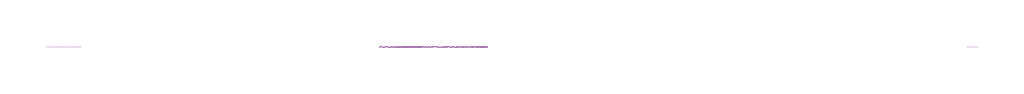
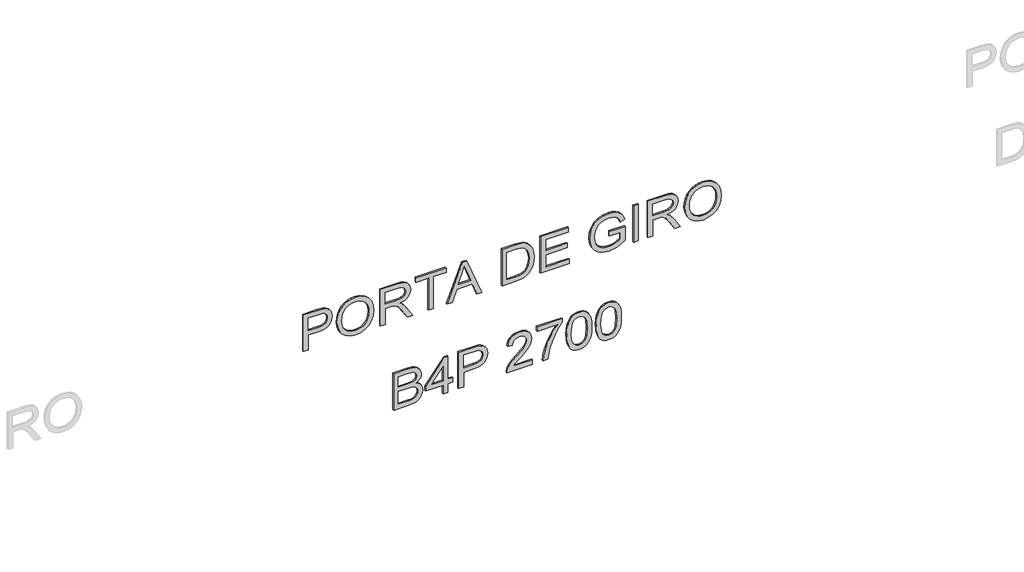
# One storey, part 7 of 13: 1 proxy.
"""IFC4 building model written with IfcOpenShell, lengths in millimetres."""

from ifc_helpers import new_model, si_unit, frame, origin, place, context, project, spatial, polyline, outline, extrude, element, save

model = new_model("IFC4")

# Units and contexts
model_context = context("Model", 3, world=origin())
ifc_project = project(units=[si_unit("LENGTHUNIT", "METRE", prefix="MILLI")], contexts=[model_context])

# Site, building, storey
site = spatial("IfcSite", under=ifc_project)
building = spatial("IfcBuilding", under=site)
storey = spatial("IfcBuildingStorey", under=building, Name="02 - Marelli - Planta Baixa - Portas", Elevation=-12000.0)

# Proxy
placement = place(None, origin())
element("IfcBuildingElementProxy", 1, Name="300mm Arial", ObjectType="300mm Arial", at=placement, inside=storey, context=model_context, shape_type="SweptSolid", body=[
    extrude(outline(polyline([(-6049.0625952, 37248.0968395), (-6049.0625952, 37285.7679558), (-5926.6314672, 37285.7679558), (-5926.6314672, 37362.3609872), (-5924.9668012, 37391.5593213), (-5919.9728031, 37415.8786204), (-5911.6494729, 37435.3188846), (-5899.9968107, 37449.8801138), (-5885.93912, 37460.4866116), (-5870.4007042, 37468.0626814), (-5853.3815634, 37472.6083233), (-5834.8816976, 37474.1235373), (-5813.4249802, 37471.8794571), (-5793.7892787, 37465.1472166), (-5777.1426184, 37454.7269591), (-5764.6530247, 37441.4188279), (-5755.9250244, 37424.8917293), (-5750.5631443, 37404.8145694), (-5747.6936647, 37359.7858132), (-5747.6936647, 37248.0968395), (-6049.0625952, 37248.0968395)]), holes=[polyline([(-5888.9603509, 37285.7679558), (-5785.364781, 37285.7679558), (-5785.364781, 37363.6853623), (-5787.939955, 37401.3564786), (-5794.2675253, 37415.5843148), (-5805.0096796, 37426.7771245), (-5819.283501, 37434.0335969), (-5836.2060728, 37436.452421), (-5858.4813276, 37432.3505367), (-5875.1279879, 37420.044884), (-5885.5022601, 37397.9719643), (-5888.9603509, 37364.5682791), (-5888.9603509, 37285.7679558)])]), frame((0.0, 8778.3159498, 0.0), z_axis=(0.0, 1.0, 0.0), x_axis=(0.0, 0.0, 1.0)), (0.0, 0.0, 1.0), 10.0),
    extrude(outline(polyline([(-5902.3512555, 37511.7946536), (-5940.8960916, 37516.0988729), (-5977.3623943, 37529.011531), (-6009.0554282, 37550.2751103), (-6033.2804576, 37579.6320935), (-6048.6487279, 37615.2798588), (-6053.7714847, 37655.4157845), (-6049.1361716, 37693.2248566), (-6035.2302322, 37728.3667842), (-6012.3111839, 37758.3307727), (-5980.6365441, 37780.6060275), (-5942.1744815, 37794.4291934), (-5898.8931648, 37799.0369154), (-5856.1820651, 37794.6591197), (-5818.2534314, 37781.5257325), (-5786.6339739, 37760.0414239), (-5762.8504029, 37730.6108643), (-5747.9511821, 37695.1654341), (-5742.9847752, 37655.6365137), (-5745.628927, 37625.3460299), (-5753.5613826, 37597.971011), (-5766.7821418, 37573.5114568), (-5785.2912046, 37551.9673675), (-5808.4723689, 37534.3918051), (-5835.7094321, 37521.8378321), (-5867.0023943, 37514.3054482), (-5902.3512555, 37511.7946536)]), holes=[polyline([(-5902.7191375, 37549.4657699), (-5872.1826326, 37551.4293401), (-5846.3504188, 37557.3200505), (-5825.222496, 37567.1379012), (-5808.7988641, 37580.8828923), (-5796.4863136, 37597.3502101), (-5787.6916347, 37615.3350411), (-5782.4148273, 37634.8373854), (-5780.6558915, 37655.8572429), (-5784.3071203, 37685.0210881), (-5795.2608067, 37711.1499068), (-5812.8547631, 37732.8089592), (-5836.426802, 37748.5635057), (-5865.2503563, 37758.1652258), (-5898.5988592, 37761.3657991), (-5925.1369466, 37759.4964987), (-5948.4652636, 37753.8885976), (-5968.5838102, 37744.5420956), (-5985.4925864, 37731.4569929), (-5998.883491, 37715.4748195), (-6008.4484229, 37697.4371054), (-6014.187382, 37677.3438507), (-6016.1003684, 37655.1950553), (-6014.2057761, 37633.4187405), (-6008.5219993, 37613.5600105), (-5999.0490379, 37595.6188655), (-5985.786892, 37579.5953053), (-5969.2276037, 37566.4136336), (-5949.8632152, 37556.9981538), (-5927.6937264, 37551.3488659), (-5902.7191375, 37549.4657699)])]), frame((0.0, 8778.3159498, 0.0), z_axis=(0.0, 1.0, 0.0), x_axis=(0.0, 0.0, 1.0)), (0.0, 0.0, 1.0), 10.0),
    extrude(outline(polyline([(-6049.0625952, 37850.8347003), (-6049.0625952, 37888.5058167), (-5917.2136881, 37888.5058167), (-5917.2136881, 37933.9760313), (-5918.5380633, 37955.8282218), (-5925.7117622, 37973.7440749), (-5945.2462961, 37993.6464909), (-5986.5962324, 38021.9734045), (-6049.0625952, 38061.1896252), (-6049.0625952, 38104.9675826), (-5967.3927923, 38054.7149021), (-5928.61803, 38024.1806965), (-5912.5047986, 38002.7699644), (-5902.5168024, 38039.8800606), (-5894.5015734, 38054.2619474), (-5884.4721905, 38065.8617265), (-5859.8608851, 38081.1748146), (-5830.1728081, 38086.2791773), (-5806.3064636, 38083.1981656), (-5784.5922289, 38073.9551304), (-5767.0810459, 38059.5525503), (-5755.8238568, 38040.9929037), (-5749.7262128, 38015.5998489), (-5747.6936647, 37980.6970446), (-5747.6936647, 37850.8347003), (-6049.0625952, 37850.8347003)]), holes=[polyline([(-5879.5425718, 37888.5058167), (-5785.364781, 37888.5058167), (-5785.364781, 37982.3157254), (-5788.6205367, 38012.1233641), (-5798.3878037, 38032.6787706), (-5813.195054, 38044.6257384), (-5831.5707596, 38048.608061), (-5844.8788908, 38046.5203306), (-5857.1385583, 38040.2571397), (-5867.2737073, 38029.9748379), (-5874.2082829, 38015.8297752), (-5878.2089996, 37997.0402023), (-5879.5425718, 37972.82437), (-5879.5425718, 37888.5058167)])]), frame((0.0, 8778.3159498, 0.0), z_axis=(0.0, 1.0, 0.0), x_axis=(0.0, 0.0, 1.0)), (0.0, 0.0, 1.0), 10.0),
    extrude(outline(polyline([(-6049.0625952, 38227.5458634), (-6049.0625952, 38265.2169797), (-5785.364781, 38265.2169797), (-5785.364781, 38364.10366), (-5747.6936647, 38364.10366), (-5747.6936647, 38128.6591831), (-5785.364781, 38128.6591831), (-5785.364781, 38227.5458634), (-6049.0625952, 38227.5458634)])), frame((0.0, 8778.3159498, 0.0), z_axis=(0.0, 1.0, 0.0), x_axis=(0.0, 0.0, 1.0)), (0.0, 0.0, 1.0), 10.0),
    extrude(outline(polyline([(-6049.0625952, 38371.3877235), (-6049.0625952, 38411.1925554), (-5954.8848044, 38445.6263102), (-5954.8848044, 38569.7496953), (-6049.0625952, 38604.2570265), (-6049.0625952, 38644.0618584), (-5747.6936647, 38523.7644459), (-5747.6936647, 38491.6851359), (-6049.0625952, 38371.3877235)]), holes=[polyline([(-5917.2136881, 38459.4586732), (-5836.6475312, 38488.9628092), (-5785.364781, 38507.7247909), (-5843.1222543, 38528.8412175), (-5917.2136881, 38555.9909087), (-5917.2136881, 38459.4586732)])]), frame((0.0, 8778.3159498, 0.0), z_axis=(0.0, 1.0, 0.0), x_axis=(0.0, 0.0, 1.0)), (0.0, 0.0, 1.0), 10.0),
    extrude(outline(polyline([(-6049.0625952, 38802.0303871), (-6049.0625952, 38910.9970341), (-6043.9122473, 38959.4470928), (-6037.5570858, 38978.9908238), (-6028.7922972, 38995.4627401), (-6016.9740882, 39009.810138), (-6001.458665, 39022.9803134), (-5981.8045694, 39034.4214434), (-5957.570343, 39043.5817051), (-5929.1054736, 39049.5965757), (-5896.7594492, 39051.6015326), (-5858.6836627, 39048.6400825), (-5825.0960365, 39039.7557324), (-5796.5483937, 39024.9116939), (-5773.5925572, 39004.0711788), (-5760.4039877, 38983.8008809), (-5752.0346723, 38959.7781866), (-5747.6936647, 38905.9938389), (-5747.6936647, 38802.0303871), (-6049.0625952, 38802.0303871)]), holes=[polyline([(-6011.3914789, 38839.7015034), (-5785.364781, 38839.7015034), (-5785.364781, 38905.3316513), (-5786.8730972, 38937.0798675), (-5791.3980458, 38958.748117), (-5803.97961, 38980.0392875), (-5824.8017309, 38997.8539731), (-5855.1152073, 39009.9113055), (-5896.170838, 39013.9304163), (-5927.155699, 39011.8794742), (-5953.155759, 39005.7266478), (-5974.2629885, 38995.8950015), (-5990.5693579, 38982.8075995), (-5999.3801317, 38970.6307055), (-6005.9468253, 38954.8485679), (-6010.0303155, 38933.9344764), (-6011.3914789, 38906.3617209), (-6011.3914789, 38839.7015034)])]), frame((0.0, 8778.3159498, 0.0), z_axis=(0.0, 1.0, 0.0), x_axis=(0.0, 0.0, 1.0)), (0.0, 0.0, 1.0), 10.0),
    extrude(outline(polyline([(-6049.0625952, 39103.3993175), (-6049.0625952, 39324.7171258), (-6011.3914789, 39324.7171258), (-6011.3914789, 39141.0704338), (-5912.5047986, 39141.0704338), (-5912.5047986, 39310.5904572), (-5874.8336823, 39310.5904572), (-5874.8336823, 39141.0704338), (-5785.364781, 39141.0704338), (-5785.364781, 39320.0082363), (-5747.6936647, 39320.0082363), (-5747.6936647, 39103.3993175), (-6049.0625952, 39103.3993175)])), frame((0.0, 8778.3159498, 0.0), z_axis=(0.0, 1.0, 0.0), x_axis=(0.0, 0.0, 1.0)), (0.0, 0.0, 1.0), 10.0),
    extrude(outline(polyline([(-5931.3403567, 39640.2127249), (-5931.3403567, 39724.9727366), (-5985.786892, 39724.9727366), (-5996.4278787, 39708.9238845), (-6006.4250719, 39686.8233737), (-6013.6815443, 39661.3751367), (-6016.1003684, 39635.2831062), (-6012.890598, 39605.7329849), (-6003.2612868, 39577.8567267), (-5987.0192967, 39554.0363675), (-5963.9714897, 39536.6539432), (-5934.3293979, 39526.0313506), (-5898.3045536, 39522.4904864), (-5867.586407, 39525.4335424), (-5839.1491287, 39534.2627103), (-5810.1232393, 39553.6500914), (-5798.1854686, 39568.0894597), (-5788.7860836, 39586.4651654), (-5782.6884395, 39608.694435), (-5780.6558915, 39634.694495), (-5782.5412867, 39656.9053704), (-5788.1974724, 39677.0377126), (-5796.9898521, 39693.9234962), (-5808.2838293, 39706.3946958), (-5823.2658236, 39715.8216719), (-5843.1222543, 39723.574785), (-5833.3365932, 39758.3028453), (-5805.4971232, 39748.7103223), (-5783.4885829, 39735.5309498), (-5766.4924347, 39717.7162642), (-5753.6901413, 39694.2178018), (-5745.6611167, 39666.3139524), (-5742.9847752, 39635.2831062), (-5747.6016942, 39593.0134649), (-5761.4524514, 39555.967748), (-5784.803761, 39525.553104), (-5817.9223376, 39503.1766817), (-5857.4052727, 39489.408698), (-5899.8496579, 39484.8193701), (-5941.9905405, 39489.4270921), (-5979.9743565, 39503.2502581), (-6011.6397992, 39526.1141241), (-6034.825562, 39557.8439462), (-6049.035004, 39596.0392943), (-6053.7714847, 39638.2997385), (-6050.7916406, 39670.6457629), (-6041.8521081, 39702.2008411), (-6027.0080696, 39732.8913965), (-6006.3147073, 39762.6438529), (-5893.6692404, 39762.6438529), (-5893.6692404, 39640.2127249), (-5931.3403567, 39640.2127249)])), frame((0.0, 8778.3159498, 0.0), z_axis=(0.0, 1.0, 0.0), x_axis=(0.0, 0.0, 1.0)), (0.0, 0.0, 1.0), 10.0),
    extrude(outline(polyline([(39866.2394227, 8778.3159498), (39828.5683064, 8778.3159498), (39828.5683064, 8788.3159498), (39866.2394227, 8788.3159498), (39866.2394227, 8778.3159498)])), frame((0.0, 0.0, -6049.0625952), z_axis=(0.0, 0.0, 1.0), x_axis=(1.0, 0.0, 0.0)), (0.0, 0.0, 1.0), 301.3689304),
    extrude(outline(polyline([(-6049.0625952, 39941.5816553), (-6049.0625952, 39979.2527716), (-5917.2136881, 39979.2527716), (-5917.2136881, 40024.7229862), (-5918.5380633, 40046.5751768), (-5925.7117622, 40064.4910299), (-5945.2462961, 40084.3934459), (-5986.5962324, 40112.7203595), (-6049.0625952, 40151.9365802), (-6049.0625952, 40195.7145376), (-5967.3927923, 40145.4618571), (-5928.61803, 40114.9276515), (-5912.5047986, 40093.5169193), (-5902.5168024, 40130.6270156), (-5894.5015734, 40145.0089024), (-5884.4721905, 40156.6086815), (-5859.8608851, 40171.9217696), (-5830.1728081, 40177.0261323), (-5806.3064636, 40173.9451205), (-5784.5922289, 40164.7020854), (-5767.0810459, 40150.2995053), (-5755.8238568, 40131.7398586), (-5749.7262128, 40106.3468039), (-5747.6936647, 40071.4439996), (-5747.6936647, 39941.5816553), (-6049.0625952, 39941.5816553)]), holes=[polyline([(-5879.5425718, 39979.2527716), (-5785.364781, 39979.2527716), (-5785.364781, 40073.0626804), (-5788.6205367, 40102.8703191), (-5798.3878037, 40123.4257256), (-5813.195054, 40135.3726933), (-5831.5707596, 40139.3550159), (-5844.8788908, 40137.2672856), (-5857.1385583, 40131.0040947), (-5867.2737073, 40120.7217929), (-5874.2082829, 40106.5767302), (-5878.2089996, 40087.7871573), (-5879.5425718, 40063.5713249), (-5879.5425718, 39979.2527716)])]), frame((0.0, 8778.3159498, 0.0), z_axis=(0.0, 1.0, 0.0), x_axis=(0.0, 0.0, 1.0)), (0.0, 0.0, 1.0), 10.0),
    extrude(outline(polyline([(-5902.3512555, 40228.8239172), (-5940.8960916, 40233.1281365), (-5977.3623943, 40246.0407945), (-6009.0554282, 40267.3043739), (-6033.2804576, 40296.6613571), (-6048.6487279, 40332.3091224), (-6053.7714847, 40372.4450481), (-6049.1361716, 40410.2541201), (-6035.2302322, 40445.3960477), (-6012.3111839, 40475.3600362), (-5980.6365441, 40497.635291), (-5942.1744815, 40511.458457), (-5898.8931648, 40516.066179), (-5856.1820651, 40511.6883833), (-5818.2534314, 40498.554996), (-5786.6339739, 40477.0706875), (-5762.8504029, 40447.6401279), (-5747.9511821, 40412.1946977), (-5742.9847752, 40372.6657773), (-5745.628927, 40342.3752935), (-5753.5613826, 40315.0002745), (-5766.7821418, 40290.5407204), (-5785.2912046, 40268.996631), (-5808.4723689, 40251.4210687), (-5835.7094321, 40238.8670956), (-5867.0023943, 40231.3347118), (-5902.3512555, 40228.8239172)]), holes=[polyline([(-5902.7191375, 40266.4950335), (-5872.1826326, 40268.4586036), (-5846.3504188, 40274.3493141), (-5825.222496, 40284.1671648), (-5808.7988641, 40297.9121559), (-5796.4863136, 40314.3794737), (-5787.6916347, 40332.3643047), (-5782.4148273, 40351.866649), (-5780.6558915, 40372.8865065), (-5784.3071203, 40402.0503517), (-5795.2608067, 40428.1791704), (-5812.8547631, 40449.8382228), (-5836.426802, 40465.5927693), (-5865.2503563, 40475.1944893), (-5898.5988592, 40478.3950627), (-5925.1369466, 40476.5257623), (-5948.4652636, 40470.9178611), (-5968.5838102, 40461.5713592), (-5985.4925864, 40448.4862565), (-5998.883491, 40432.5040831), (-6008.4484229, 40414.466369), (-6014.187382, 40394.3731143), (-6016.1003684, 40372.2243189), (-6014.2057761, 40350.448004), (-6008.5219993, 40330.5892741), (-5999.0490379, 40312.648129), (-5985.786892, 40296.6245689), (-5969.2276037, 40283.4428971), (-5949.8632152, 40274.0274173), (-5927.6937264, 40268.3781294), (-5902.7191375, 40266.4950335)])]), frame((0.0, 8778.3159498, 0.0), z_axis=(0.0, 1.0, 0.0), x_axis=(0.0, 0.0, 1.0)), (0.0, 0.0, 1.0), 10.0),
    extrude(outline(polyline([(-6780.9115023, 37954.4302702), (-6780.9115023, 38068.5472651), (-6775.7243661, 38116.8501711), (-6769.3048253, 38134.8855859), (-6760.4204751, 38149.6284568), (-6748.1516106, 38161.6673951), (-6731.5785267, 38171.5910119), (-6712.089978, 38178.240479), (-6691.074719, 38180.456968), (-6665.8564083, 38177.2104094), (-6644.2065528, 38167.4707336), (-6627.2471929, 38151.6977931), (-6616.1003684, 38130.3514403), (-6604.3557357, 38148.2213082), (-6589.4289238, 38160.9224341), (-6572.3683962, 38168.5100002), (-6554.2226168, 38171.039189), (-6534.5041419, 38168.0317536), (-6515.6685837, 38159.0094477), (-6499.6565199, 38144.680444), (-6488.4085279, 38125.7529153), (-6481.7590608, 38101.0588364), (-6479.5425718, 38069.4301819), (-6479.5425718, 37954.4302702), (-6780.9115023, 37954.4302702)]), holes=[polyline([(-6743.2403859, 37992.1013865), (-6639.6448161, 37992.1013865), (-6639.6448161, 38065.6777855), (-6640.9048119, 38092.50558), (-6644.6847994, 38112.2148579), (-6651.5733898, 38126.1299944), (-6662.1591942, 38135.5753646), (-6675.6972516, 38140.9832299), (-6691.442601, 38142.7858517), (-6704.9990525, 38141.2499444), (-6716.8264587, 38136.6422224), (-6733.5650895, 38120.9704494), (-6741.768858, 38097.3156371), (-6743.2403859, 38069.3566055), (-6743.2403859, 37992.1013865)]), polyline([(-6601.9736998, 37992.1013865), (-6517.2136881, 37992.1013865), (-6517.2136881, 38055.6713953), (-6521.1500255, 38104.0846658), (-6526.7510288, 38116.5742596), (-6535.6813643, 38125.7897035), (-6547.1224943, 38131.4734804), (-6560.2558815, 38133.3680726), (-6573.7847419, 38131.3355246), (-6584.7936106, 38125.2378806), (-6593.153729, 38115.1303227), (-6598.7363382, 38101.0680335), (-6601.9736998, 38060.8953196), (-6601.9736998, 37992.1013865)])]), frame((0.0, 8778.3159498, 0.0), z_axis=(0.0, 1.0, 0.0), x_axis=(0.0, 0.0, 1.0)), (0.0, 0.0, 1.0), 10.0),
    extrude(outline(polyline([(-6780.9115023, 38340.5592123), (-6780.9115023, 38378.2303286), (-6710.2781592, 38378.2303286), (-6710.2781592, 38415.9014449), (-6672.6070429, 38415.9014449), (-6672.6070429, 38378.2303286), (-6484.2514613, 38378.2303286), (-6484.2514613, 38349.9769914), (-6672.6070429, 38204.0014157), (-6710.2781592, 38204.0014157), (-6710.2781592, 38340.5592123), (-6780.9115023, 38340.5592123)]), holes=[polyline([(-6672.6070429, 38340.5592123), (-6672.6070429, 38250.3545471), (-6556.2091796, 38340.5592123), (-6672.6070429, 38340.5592123)])]), frame((0.0, 8778.3159498, 0.0), z_axis=(0.0, 1.0, 0.0), x_axis=(0.0, 0.0, 1.0)), (0.0, 0.0, 1.0), 10.0),
    extrude(outline(polyline([(-6780.9115023, 38462.9903403), (-6780.9115023, 38500.6614566), (-6658.4803743, 38500.6614566), (-6658.4803743, 38577.254488), (-6656.8157082, 38606.4528221), (-6651.8217101, 38630.7721213), (-6643.49838, 38650.2123855), (-6631.8457178, 38664.7736147), (-6617.7880271, 38675.3801125), (-6602.2496113, 38682.9561823), (-6585.2304705, 38687.5018242), (-6566.7306047, 38689.0170382), (-6545.2738873, 38686.772958), (-6525.6381858, 38680.0407175), (-6508.9915255, 38669.62046), (-6496.5019318, 38656.3123288), (-6487.7739314, 38639.7852302), (-6482.4120514, 38619.7080703), (-6479.5425718, 38574.6793141), (-6479.5425718, 38462.9903403), (-6780.9115023, 38462.9903403)]), holes=[polyline([(-6620.809258, 38500.6614566), (-6517.2136881, 38500.6614566), (-6517.2136881, 38578.5788632), (-6519.7888621, 38616.2499795), (-6526.1164324, 38630.4778157), (-6536.8585867, 38641.6706254), (-6551.1324081, 38648.9270977), (-6568.0549798, 38651.3459219), (-6590.3302347, 38647.2440376), (-6606.9768949, 38634.9383849), (-6617.3511672, 38612.8654652), (-6620.809258, 38579.46178), (-6620.809258, 38500.6614566)])]), frame((0.0, 8778.3159498, 0.0), z_axis=(0.0, 1.0, 0.0), x_axis=(0.0, 0.0, 1.0)), (0.0, 0.0, 1.0), 10.0),
    extrude(outline(polyline([(-6743.2403859, 39037.474864), (-6743.2403859, 38889.5127255), (-6724.073734, 38906.5088737), (-6687.8373575, 38949.8453727), (-6658.8206651, 38982.5408851), (-6636.2235136, 39003.8136614), (-6617.2959849, 39017.1585808), (-6599.2881612, 39026.0705221), (-6581.5838402, 39031.0921114), (-6563.5668195, 39032.7659745), (-6546.4143215, 39031.2139723), (-6530.7149573, 39026.5579658), (-6516.4687271, 39018.7979549), (-6503.6756307, 39007.9339398), (-6493.1174174, 38994.4073787), (-6485.5758365, 38978.65973), (-6481.050888, 38960.6909938), (-6479.5425718, 38940.5011701), (-6484.9688312, 38902.6185216), (-6491.7516555, 38886.8846685), (-6501.2476095, 38873.2891295), (-6513.3279345, 38862.0894221), (-6527.8638719, 38853.5430635), (-6564.3025835, 38844.4103929), (-6569.011473, 38882.0815092), (-6547.3616176, 38886.1558023), (-6530.9724747, 38897.9372232), (-6520.6533848, 38916.1933672), (-6517.2136881, 38939.6918297), (-6520.7361582, 38962.068252), (-6531.3035685, 38979.7541789), (-6546.9845386, 38991.2596883), (-6565.8476879, 38995.0948581), (-6586.890538, 38991.0297621), (-6608.5219993, 38978.834474), (-6635.1750499, 38954.4438977), (-6671.2826677, 38913.7929372), (-6694.3396717, 38886.2937581), (-6714.9502605, 38866.6304654), (-6734.6411443, 38853.0372257), (-6754.9390334, 38843.7482053), (-6780.9115023, 38839.7015034), (-6780.9115023, 39037.474864), (-6743.2403859, 39037.474864)])), frame((0.0, 8778.3159498, 0.0), z_axis=(0.0, 1.0, 0.0), x_axis=(0.0, 0.0, 1.0)), (0.0, 0.0, 1.0), 10.0),
    extrude(outline(polyline([(-6521.9225776, 39075.1459803), (-6521.9225776, 39235.2482246), (-6557.2668403, 39205.9280296), (-6599.8767724, 39178.3000917), (-6647.0116531, 39154.6360824), (-6695.9307614, 39137.2076729), (-6742.0815577, 39126.3091688), (-6780.9115023, 39122.2348757), (-6780.9115023, 39159.905992), (-6738.1820085, 39164.9091871), (-6699.0209701, 39173.8855078), (-6646.6805593, 39192.1968341), (-6595.7564941, 39216.8173366), (-6550.387447, 39244.730383), (-6514.7120905, 39272.9193409), (-6484.2514613, 39272.9193409), (-6484.2514613, 39075.1459803), (-6521.9225776, 39075.1459803)])), frame((0.0, 8778.3159498, 0.0), z_axis=(0.0, 1.0, 0.0), x_axis=(0.0, 0.0, 1.0)), (0.0, 0.0, 1.0), 10.0),
    extrude(outline(polyline([(-6632.6550582, 39305.8815677), (-6672.0966066, 39307.7577658), (-6705.9555457, 39313.3863604), (-6734.2318756, 39322.7673513), (-6756.9255962, 39335.9007385), (-6769.4795693, 39349.5859487), (-6778.4466929, 39365.6256037), (-6783.8269671, 39384.0197034), (-6785.6203918, 39404.768248), (-6781.4909164, 39435.2196801), (-6769.1024902, 39459.9137591), (-6748.3171575, 39479.0160317), (-6718.9969625, 39492.6920448), (-6680.6176733, 39500.9142074), (-6632.6550582, 39503.6549283), (-6592.6938765, 39501.944277), (-6561.8377741, 39496.8123232), (-6537.5391683, 39488.9764367), (-6517.2504763, 39479.1539874), (-6501.1096538, 39466.1493589), (-6489.2546565, 39448.7669346), (-6481.970593, 39427.9816019), (-6479.5425718, 39404.768248), (-6483.6444561, 39374.4823627), (-6495.9501088, 39349.8434661), (-6516.6526681, 39330.7136023), (-6545.9452719, 39316.9548157), (-6584.4165316, 39308.6498797), (-6632.6550582, 39305.8815677)]), holes=[polyline([(-6632.5814818, 39343.552684), (-6574.0882446, 39348.1144207), (-6553.0086062, 39353.8165916), (-6537.3736214, 39361.7996309), (-6522.2536714, 39380.7455537), (-6517.2136881, 39404.3267896), (-6522.9342531, 39429.2324007), (-6540.0959482, 39448.9140874), (-6554.4571416, 39456.3820919), (-6574.6584617, 39461.7163808), (-6632.5814818, 39465.983812), (-6691.7461037, 39461.569228), (-6712.0095038, 39456.0509981), (-6726.0602968, 39448.3254762), (-6742.4770308, 39428.6070013), (-6747.9492755, 39404.768248), (-6742.4954249, 39380.9294947), (-6726.1338732, 39361.2110197), (-6712.1060728, 39353.4854978), (-6691.8380742, 39347.9672679), (-6632.5814818, 39343.552684)])]), frame((0.0, 8778.3159498, 0.0), z_axis=(0.0, 1.0, 0.0), x_axis=(0.0, 0.0, 1.0)), (0.0, 0.0, 1.0), 10.0),
    extrude(outline(polyline([(-6632.6550582, 39536.617155), (-6672.0966066, 39538.4933532), (-6705.9555457, 39544.1219477), (-6734.2318756, 39553.5029386), (-6756.9255962, 39566.6363259), (-6769.4795693, 39580.3215361), (-6778.4466929, 39596.3611911), (-6783.8269671, 39614.7552908), (-6785.6203918, 39635.5038354), (-6781.4909164, 39665.9552675), (-6769.1024902, 39690.6493464), (-6748.3171575, 39709.751619), (-6718.9969625, 39723.4276322), (-6680.6176733, 39731.6497948), (-6632.6550582, 39734.3905157), (-6592.6938765, 39732.6798644), (-6561.8377741, 39727.5479105), (-6537.5391683, 39719.712024), (-6517.2504763, 39709.8895748), (-6501.1096538, 39696.8849462), (-6489.2546565, 39679.502522), (-6481.970593, 39658.7171892), (-6479.5425718, 39635.5038354), (-6483.6444561, 39605.2179501), (-6495.9501088, 39580.5790535), (-6516.6526681, 39561.4491897), (-6545.9452719, 39547.6904031), (-6584.4165316, 39539.3854671), (-6632.6550582, 39536.617155)]), holes=[polyline([(-6632.5814818, 39574.2882714), (-6574.0882446, 39578.8500081), (-6553.0086062, 39584.552179), (-6537.3736214, 39592.5352183), (-6522.2536714, 39611.4811411), (-6517.2136881, 39635.062377), (-6522.9342531, 39659.967988), (-6540.0959482, 39679.6496748), (-6554.4571416, 39687.1176793), (-6574.6584617, 39692.4519682), (-6632.5814818, 39696.7193993), (-6691.7461037, 39692.3048154), (-6712.0095038, 39686.7865855), (-6726.0602968, 39679.0610636), (-6742.4770308, 39659.3425886), (-6747.9492755, 39635.5038354), (-6742.4954249, 39611.6650821), (-6726.1338732, 39591.9466071), (-6712.1060728, 39584.2210852), (-6691.8380742, 39578.7028553), (-6632.5814818, 39574.2882714)])]), frame((0.0, 8778.3159498, 0.0), z_axis=(0.0, 1.0, 0.0), x_axis=(0.0, 0.0, 1.0)), (0.0, 0.0, 1.0), 10.0),
])

save(model, "model.ifc")
